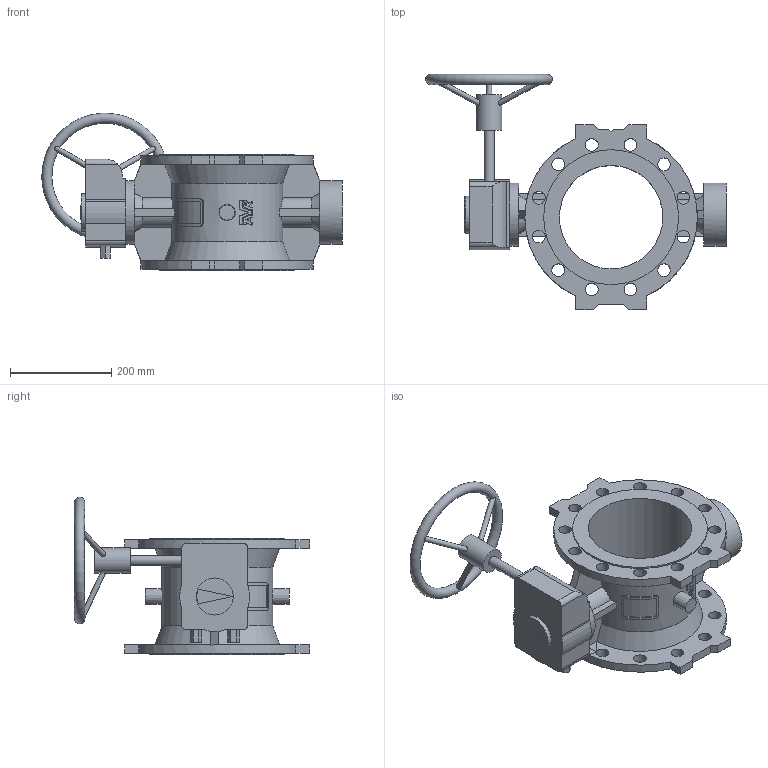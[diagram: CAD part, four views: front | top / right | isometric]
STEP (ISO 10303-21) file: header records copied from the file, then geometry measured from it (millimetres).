
FILE_DESCRIPTION (( 'STEP AP203' ), '1' );
FILE_NAME ('O_756_1_DN200_1XX00_AA0_step.step', '2016-03-04T11:24:36', ( 'Windows User' ), ( 'AVK' ), 'SwSTEP 2.0', 'SolidWorks 2012', '' );
FILE_SCHEMA (( 'CONFIG_CONTROL_DESIGN' ));
Length unit declared in the file: millimetre
Products named in the file (1): O_756_1_DN200_1XX00_AA0_step
Bounding box: 592.49 x 463.5 x 310.85 mm (x, y, z)
Volume: 7102146.4 mm3; surface area: 827208.6 mm2
Topology: 1 solids, 1 shells, 361 faces, 1018 edges, 680 vertices
Faces by surface type: plane 182, bspline 86, cylinder 78, cone 14, torus 1
Full cylindrical faces by diameter (mm): 10 x3, 20 x1, 25 x24, 50 x1, 73 x1, 125 x2, 204 x1, 266 x2
Entity records: 16643 total; most frequent: CARTESIAN_POINT 7976, ORIENTED_EDGE 1944, DIRECTION 1406, EDGE_CURVE 972, VERTEX_POINT 672, VECTOR 510, LINE 510, EDGE_LOOP 474
